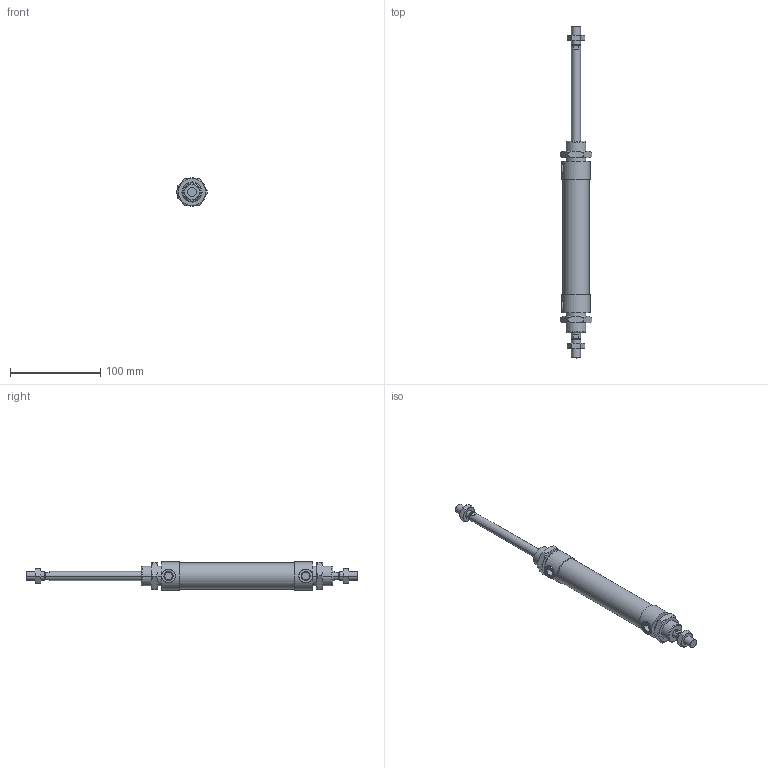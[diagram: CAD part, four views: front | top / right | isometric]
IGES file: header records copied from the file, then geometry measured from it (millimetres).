
Global section: file name: No Iges File Name specified; native system: AutoDesk Inventor R10; preprocessor: AutoDesk Inventor Iges Exporter R10; author: No Author specified; organization: No Organization specified; date: 20060105.143618; units: millimetre
Bounding box: 34.64 x 368 x 31.5 mm (x, y, z)
Volume: 151920.3 mm3; surface area: 44862.3 mm2
Topology: 6 solids, 6 shells, 185 faces, 397 edges, 232 vertices
Faces by surface type: cone 68, plane 62, cylinder 21, bspline 20, revolution 14
Full cylindrical faces by diameter (mm): 29 x1, 31.5 x2
